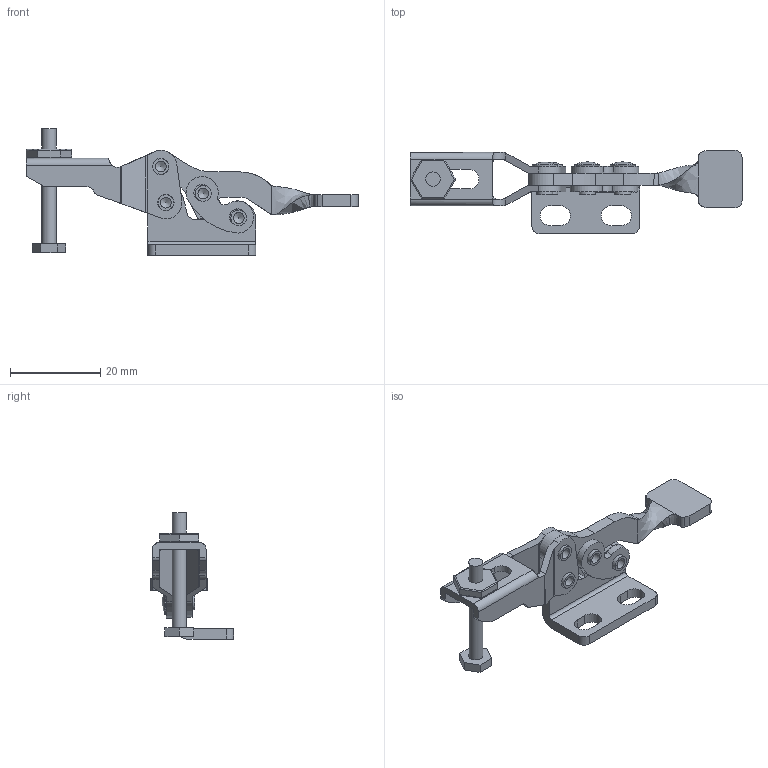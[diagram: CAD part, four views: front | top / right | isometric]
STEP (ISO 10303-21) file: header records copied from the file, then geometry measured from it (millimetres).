
FILE_DESCRIPTION(/* description */ (''),/* implementation_level */ '2;1');
FILE_NAME(/* name */ 'hl-101',/* time_stamp */ '2004-12-16T11:08:37-05:00',/* author */ (''),/* organization */ (''),/* preprocessor_version */ 'ST-DEVELOPER v9',/* originating_system */ 'EDS PLM SOLUTIONS - UNIGRAPHICS NX 2.0',/* authorisation */ '');
FILE_SCHEMA (('AUTOMOTIVE_DESIGN { 1 0 10303 214 0 1 1 1 }'));
Length unit declared in the file: inch
Products named in the file (1): mfurAEE3toaj
Bounding box: 73.48 x 18.39 x 27.94 mm (x, y, z)
Volume: 3836.6 mm3; surface area: 5642.9 mm2
Topology: 11 solids, 11 shells, 216 faces, 538 edges, 352 vertices
Faces by surface type: plane 95, cylinder 95, bspline 10, torus 8, sphere 4, cone 4
Full cylindrical faces by diameter (mm): 2.381 x4, 3.175 x2, 3.48 x4, 3.581 x2, 3.632 x10
Entity records: 7178 total; most frequent: CARTESIAN_POINT 1985, DIRECTION 1063, ORIENTED_EDGE 994, EDGE_CURVE 497, AXIS2_PLACEMENT_3D 400, VERTEX_POINT 346, EDGE_LOOP 291, LINE 263
